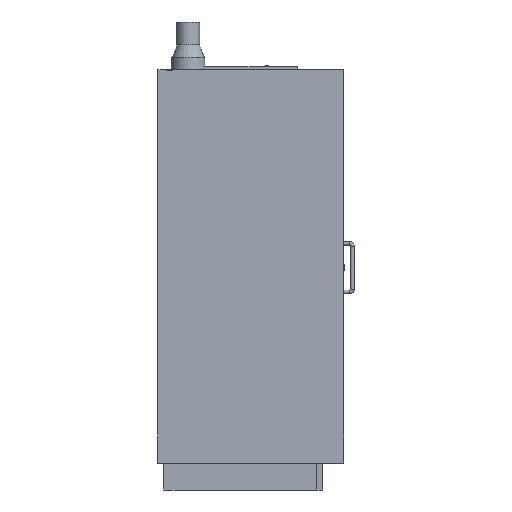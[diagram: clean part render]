
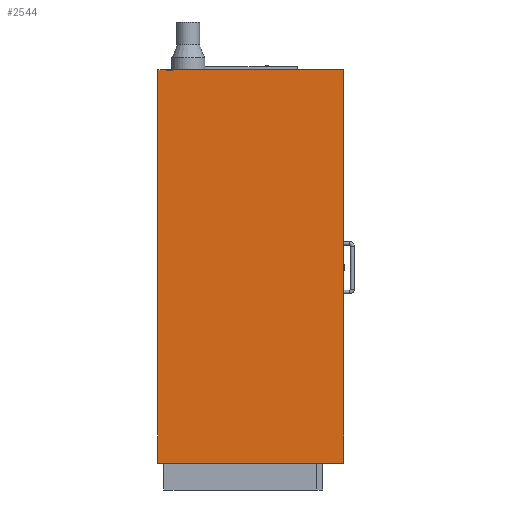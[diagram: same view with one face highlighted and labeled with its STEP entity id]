
A CAD part, left-side view. The second image highlights one B-rep face of the part: STEP entity #2544.
In plain terms, the highlighted planar face has unit normal (-1, 0, 0).
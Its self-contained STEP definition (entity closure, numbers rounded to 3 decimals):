
#520=ORIENTED_EDGE('',*,*,#797,.T.);
#521=ORIENTED_EDGE('',*,*,#664,.F.);
#522=ORIENTED_EDGE('',*,*,#798,.F.);
#523=ORIENTED_EDGE('',*,*,#761,.F.);
#524=ORIENTED_EDGE('',*,*,#788,.F.);
#525=ORIENTED_EDGE('',*,*,#672,.F.);
#526=ORIENTED_EDGE('',*,*,#791,.F.);
#527=ORIENTED_EDGE('',*,*,#753,.T.);
#664=EDGE_CURVE('',#873,#874,#1035,.T.);
#672=EDGE_CURVE('',#881,#882,#1043,.T.);
#753=EDGE_CURVE('',#942,#943,#1112,.T.);
#761=EDGE_CURVE('',#950,#951,#1120,.T.);
#788=EDGE_CURVE('',#882,#950,#1143,.T.);
#791=EDGE_CURVE('',#942,#881,#1146,.T.);
#797=EDGE_CURVE('',#943,#874,#1152,.T.);
#798=EDGE_CURVE('',#951,#873,#1153,.T.);
#873=VERTEX_POINT('',#3416);
#874=VERTEX_POINT('',#3418);
#881=VERTEX_POINT('',#3432);
#882=VERTEX_POINT('',#3434);
#942=VERTEX_POINT('',#3611);
#943=VERTEX_POINT('',#3612);
#950=VERTEX_POINT('',#3628);
#951=VERTEX_POINT('',#3629);
#1035=LINE('',#3417,#1223);
#1043=LINE('',#3433,#1231);
#1112=LINE('',#3610,#1300);
#1120=LINE('',#3627,#1308);
#1143=LINE('',#3685,#1331);
#1146=LINE('',#3689,#1334);
#1152=LINE('',#3701,#1340);
#1153=LINE('',#3703,#1341);
#1223=VECTOR('',#2919,1000.);
#1231=VECTOR('',#2927,1000.);
#1300=VECTOR('',#3092,1000.);
#1308=VECTOR('',#3102,1000.);
#1331=VECTOR('',#3155,1000.);
#1334=VECTOR('',#3160,1000.);
#1340=VECTOR('',#3178,1000.);
#1341=VECTOR('',#3181,1000.);
#1470=EDGE_LOOP('',(#520,#521,#522,#523,#524,#525,#526,#527));
#1610=FACE_BOUND('',#1470,.T.);
#1697=PLANE('',#2702);
#2544=ADVANCED_FACE('',(#1610),#1697,.F.);
#2702=AXIS2_PLACEMENT_3D('',#3702,#3179,#3180);
#2919=DIRECTION('',(0.,-1.,0.));
#2927=DIRECTION('',(0.,-1.,0.));
#3092=DIRECTION('',(0.,1.,0.));
#3102=DIRECTION('',(0.,1.,0.));
#3155=DIRECTION('',(0.,0.,-1.));
#3160=DIRECTION('',(0.,0.,1.));
#3178=DIRECTION('',(0.,0.,1.));
#3179=DIRECTION('',(1.,0.,0.));
#3180=DIRECTION('',(0.,0.,-1.));
#3181=DIRECTION('',(0.,0.,1.));
#3416=CARTESIAN_POINT('',(600.,612.,1296.));
#3417=CARTESIAN_POINT('',(600.,612.,1296.));
#3418=CARTESIAN_POINT('',(600.,583.,1296.));
#3432=CARTESIAN_POINT('',(600.,564.,1296.));
#3433=CARTESIAN_POINT('',(600.,612.,1296.));
#3434=CARTESIAN_POINT('',(600.,0.,1296.));
#3610=CARTESIAN_POINT('',(600.,564.,1294.5));
#3611=CARTESIAN_POINT('',(600.,564.,1294.5));
#3612=CARTESIAN_POINT('',(600.,583.,1294.5));
#3627=CARTESIAN_POINT('',(600.,0.,0.));
#3628=CARTESIAN_POINT('',(600.,0.,0.));
#3629=CARTESIAN_POINT('',(600.,612.,0.));
#3685=CARTESIAN_POINT('',(600.,0.,1956.));
#3689=CARTESIAN_POINT('',(600.,564.,1294.5));
#3701=CARTESIAN_POINT('',(600.,583.,1294.5));
#3702=CARTESIAN_POINT('',(600.,0.,0.));
#3703=CARTESIAN_POINT('',(600.,612.,0.));
